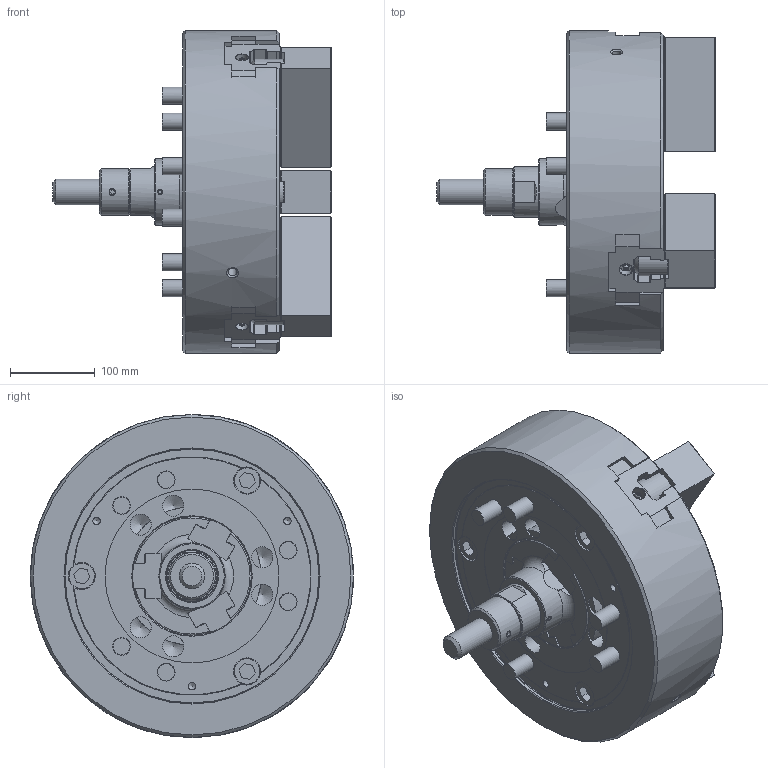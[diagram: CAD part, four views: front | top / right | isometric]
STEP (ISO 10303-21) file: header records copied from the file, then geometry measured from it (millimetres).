
FILE_DESCRIPTION (( 'STEP AP214' ), '1' );
FILE_NAME ('N-15_OC.STEP', '2020-03-09T00:24:49', ( '' ), ( '' ), 'SwSTEP 2.0', 'SolidWorks 2017', '' );
FILE_SCHEMA (( 'AUTOMOTIVE_DESIGN' ));
Length unit declared in the file: millimetre
Products named in the file (21): B傾僫僣僉 M20亊550_~55; B傾僫僣僉 M20亊550_~55_棉太倌TI佱UA; 61P4185360 T僫僢僩b_g; 61P4185360 T僫僢僩b_g_棉太倌佱UA; 61P3211280 ソフトジョー_W_‡_[; N-15_OC; 61P3211280 ソフトジョー_W_‡_[_ﾃﾞﾌｫﾙﾄ_ATI≪UA; Part2^61P2826770 クミタテ_^_e; Part2^61P2826770 僋儈僞僥_^_e_棉太倌I佱UA
Assembly tree (16 placements, depth 2):
  B傾僫僣僉 M20亊550_~55
  61P4185360 T僫僢僩b_g
  61P4185360 T僫僢僩b_g
  61P4185360 T僫僢僩b_g
  61P3211280 ソフトジョー_W_‡_[
Bounding box: 328.2 x 381 x 381 mm (x, y, z)
Volume: 13695959.4 mm3; surface area: 894048.3 mm2
Topology: 16 solids, 16 shells, 4132 faces, 11954 edges, 7916 vertices
Faces by surface type: plane 3731, cylinder 222, cone 141, torus 31, sphere 6, bspline 1
Full cylindrical faces by diameter (mm): 1.9 x3, 8.8 x3, 10.5 x2, 11 x3, 15 x3, 18 x6, 20 x18, 21 x12, 25 x6, 30 x16, 32 x15, 55 x1, 60 x1, 60.5 x1, 78 x1, 205 x1, 300 x1, 301 x1, 381 x1
Entity records: 91727 total; most frequent: CARTESIAN_POINT 18227, ORIENTED_EDGE 15902, DIRECTION 13910, EDGE_CURVE 7951, VECTOR 7038, LINE 7038, VERTEX_POINT 5328, AXIS2_PLACEMENT_3D 3436
